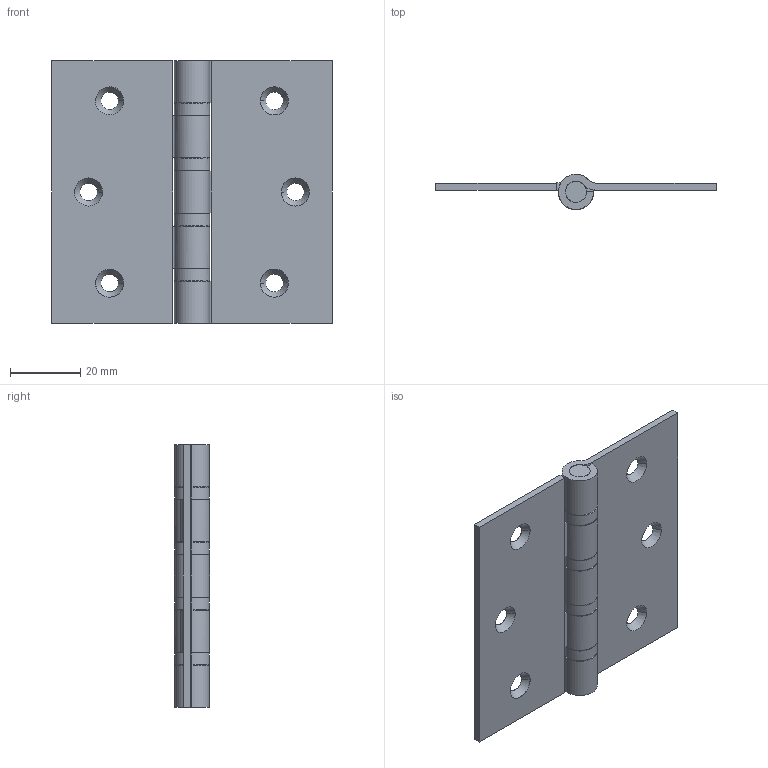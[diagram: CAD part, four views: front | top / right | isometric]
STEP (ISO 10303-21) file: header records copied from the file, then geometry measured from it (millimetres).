
FILE_DESCRIPTION((''),'2;1');
FILE_NAME('6009.01.stp','2015-07-17T15:36:14',(''),(''),'Mechanical Desktop 2006','Mechanical Desktop 2006',', , ');
FILE_SCHEMA(('CONFIG_CONTROL_DESIGN'));
Length unit declared in the file: millimetre
Products named in the file (1): 6009.01
Bounding box: 80 x 10 x 75 mm (x, y, z)
Volume: 6777.2 mm3; surface area: 15864.9 mm2
Topology: 1 solids, 1 shells, 90 faces, 344 edges, 312 vertices
Faces by surface type: bspline 56, cylinder 14, plane 14, cone 6
Entity records: 4745 total; most frequent: CARTESIAN_POINT 2690, QUASI_UNIFORM_CURVE 333, PCURVE 248, COMPOSITE_CURVE_SEGMENT 248, DIRECTION 214, ORIENTED_EDGE 192, EDGE_CURVE 96, AXIS2_PLACEMENT_3D 83
